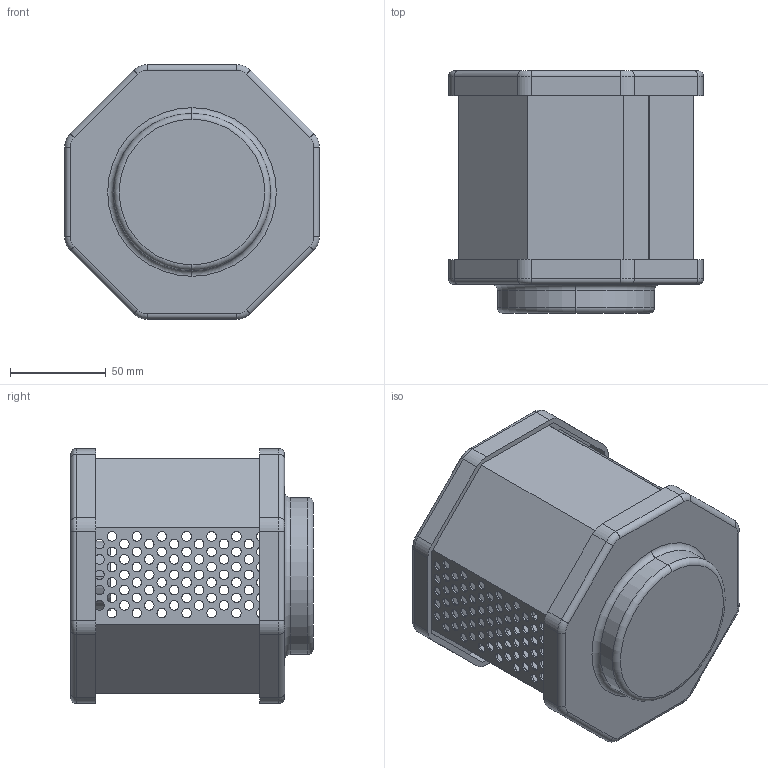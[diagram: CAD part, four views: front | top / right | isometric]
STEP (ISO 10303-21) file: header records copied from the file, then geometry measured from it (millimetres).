
FILE_DESCRIPTION (( 'STEP AP214' ), '1' );
FILE_NAME ('SIS-10.STEP', '2010-07-02T07:18:48', ( ' ' ), ( '' ), 'SwSTEP 2.0', 'SolidWorks 2010', '' );
FILE_SCHEMA (( 'AUTOMOTIVE_DESIGN' ));
Length unit declared in the file: millimetre
Products named in the file (4): SIS-10-gavel; SIS-10-skal; SIS-10-gaveltopp; SIS-10
Assembly tree (3 placements, depth 2):
  SIS-10
    SIS-10-gavel
    SIS-10-skal
    SIS-10-gaveltopp
Bounding box: 133 x 126.6 x 133 mm (x, y, z)
Volume: 165118.4 mm3; surface area: 165097 mm2
Topology: 3 solids, 3 shells, 476 faces, 1360 edges, 894 vertices
Faces by surface type: cylinder 382, plane 72, torus 22
Entity records: 16780 total; most frequent: DIRECTION 3116, CARTESIAN_POINT 2736, ORIENTED_EDGE 2720, EDGE_CURVE 1360, AXIS2_PLACEMENT_3D 1274, VERTEX_POINT 894, EDGE_LOOP 816, CIRCLE 792
